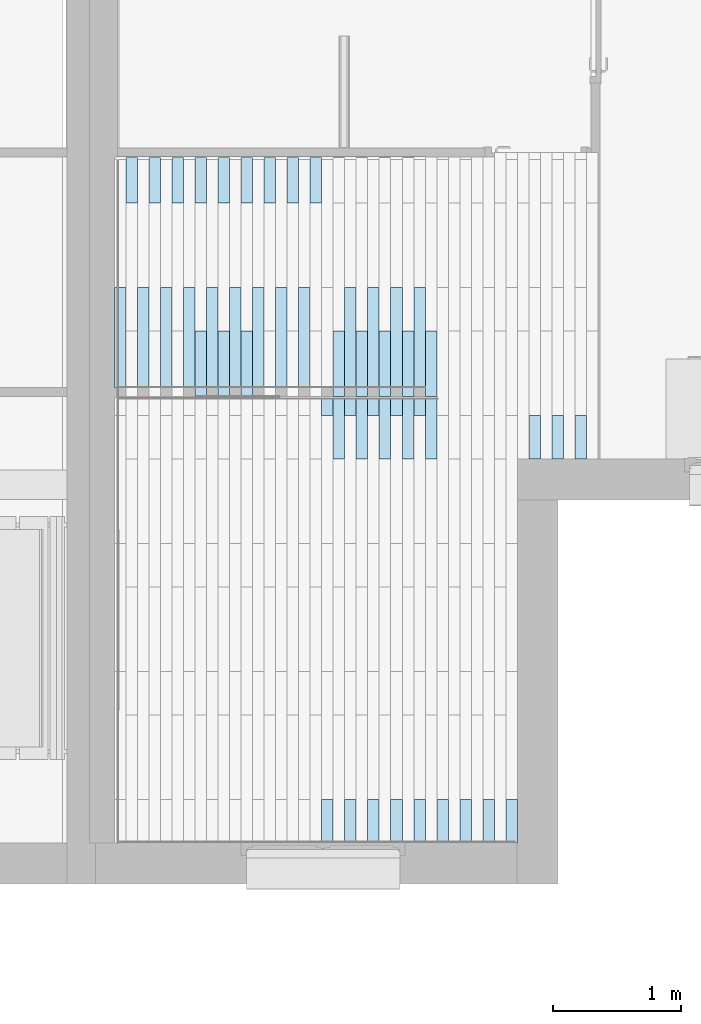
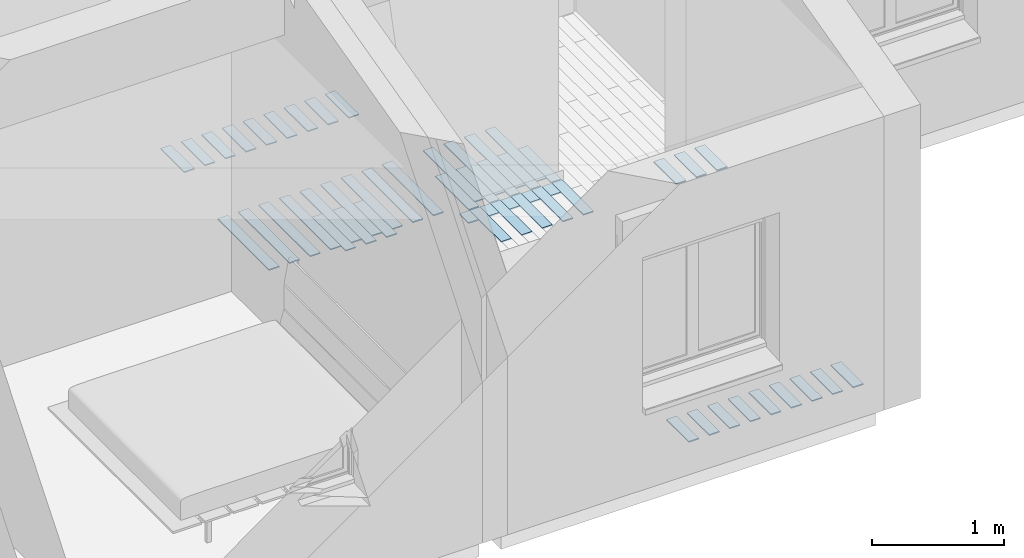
# One storey, part 5 of 50: 52 slabs.
"""IFC2X3 building model written with IfcOpenShell, lengths in metres."""

from ifc_helpers import new_model, entity, si_unit, converted_unit, derived_unit, direction, frame, frame_2d, origin, place, context, subcontext, project, spatial, rectangle, extrude, material, layer, layer_set, layer_usage, element, save


model = new_model("IFC2X3")

# Units and contexts
model_context = context("Model", 3, precision=1e-05, world=origin(), true_north=direction((6.12303176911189e-17, 1.0)))
context_of_model = context(None, 3, precision=1e-05, world=origin(), true_north=direction((6.12303176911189e-17, 1.0)))
body_context = subcontext(model_context, "Body", "Model", "MODEL_VIEW")
ifc_project = project(units=[si_unit("LENGTHUNIT", "METRE"), si_unit("AREAUNIT", "SQUARE_METRE"), si_unit("VOLUMEUNIT", "CUBIC_METRE"), converted_unit("PLANEANGLEUNIT", "DEGREE", entity("IfcRatioMeasure", 0.0174532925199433), si_unit("PLANEANGLEUNIT", "RADIAN"), dimensions=[0, 0, 0, 0, 0, 0, 0]), si_unit("MASSUNIT", "GRAM", prefix="KILO"), si_unit("TIMEUNIT", "SECOND"), si_unit("FREQUENCYUNIT", "HERTZ"), si_unit("THERMODYNAMICTEMPERATUREUNIT", "DEGREE_CELSIUS"), derived_unit("THERMALTRANSMITTANCEUNIT", [(si_unit("MASSUNIT", "GRAM", prefix="KILO"), 1), (si_unit("THERMODYNAMICTEMPERATUREUNIT", "KELVIN"), -1), (si_unit("TIMEUNIT", "SECOND"), -3)]), derived_unit("VOLUMETRICFLOWRATEUNIT", [(si_unit("LENGTHUNIT", "METRE"), 3), (si_unit("TIMEUNIT", "SECOND"), -1)]), si_unit("ELECTRICCURRENTUNIT", "AMPERE"), si_unit("ELECTRICVOLTAGEUNIT", "VOLT"), si_unit("POWERUNIT", "WATT"), si_unit("FORCEUNIT", "NEWTON", prefix="KILO"), si_unit("ILLUMINANCEUNIT", "LUX"), si_unit("LUMINOUSFLUXUNIT", "LUMEN"), si_unit("LUMINOUSINTENSITYUNIT", "CANDELA"), si_unit("PRESSUREUNIT", "PASCAL")], contexts=[model_context, context_of_model])

# Site, building, storey
site_placement = place(None, origin())
site = spatial("IfcSite", under=ifc_project, at=site_placement, Name="Surface", CompositionType="ELEMENT")
building_placement = place(site_placement, origin())
building = spatial("IfcBuilding", under=site, at=building_placement, CompositionType="ELEMENT")
storey_placement = place(building_placement, frame((0.0, 0.0, 2.82)))
storey = spatial("IfcBuildingStorey", under=building, at=storey_placement, Name="ETAGE", CompositionType="ELEMENT", Elevation=2.82)

# Slabs
ifc_material = material(Name="PARQUET BAMBOU")
ifc_layer = layer(ifc_material, 0.01)
ifc_layer_set = layer_set([ifc_layer], Name="Sol:LAME DE BAMBOU")
ifc_layer_usage_1 = layer_usage(ifc_layer_set, "AXIS3", "POSITIVE", 0.0)
slab_1_placement = place(storey_placement, origin())
element("IfcSlab", 1, at=slab_1_placement, inside=storey, material=ifc_layer_usage_1, Name="Sol:LAME DE BAMBOU", ObjectType="Sol:LAME DE BAMBOU", PredefinedType="FLOOR", context=body_context, shape_type="SweptSolid", body=[
    extrude(rectangle(XDim=0.339999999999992, YDim=0.0899999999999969, at=frame_2d((0.0, 8.66320903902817e-15), x_axis=(1.0, 0.0))), frame((85.566089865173, 81.4175239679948, 0.05), z_axis=(0.0, 0.0, -1.0), x_axis=(0.0, 1.0, 0.0)), (0.0, 0.0, 1.0), 0.00999999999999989),
])
ifc_layer_usage_2 = layer_usage(ifc_layer_set, "AXIS3", "POSITIVE", 0.0)
slab_2_placement = place(storey_placement, origin())
element("IfcSlab", 2, at=slab_2_placement, inside=storey, material=ifc_layer_usage_2, Name="Sol:LAME DE BAMBOU", ObjectType="Sol:LAME DE BAMBOU", PredefinedType="FLOOR", context=body_context, shape_type="SweptSolid", body=[
    extrude(rectangle(XDim=0.139570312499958, YDim=0.0899999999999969, at=frame_2d((8.65973959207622e-15, 8.66320903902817e-15), x_axis=(1.0, 0.0))), frame((85.566089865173, 84.6573091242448, 0.05), z_axis=(0.0, 0.0, -1.0), x_axis=(0.0, 1.0, 0.0)), (0.0, 0.0, 1.0), 0.00999999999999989),
])
ifc_layer_usage_3 = layer_usage(ifc_layer_set, "AXIS3", "POSITIVE", 0.0)
slab_3_placement = place(storey_placement, origin())
element("IfcSlab", 3, at=slab_3_placement, inside=storey, material=ifc_layer_usage_3, Name="Sol:LAME DE BAMBOU", ObjectType="Sol:LAME DE BAMBOU", PredefinedType="FLOOR", context=body_context, shape_type="SweptSolid", body=[
    extrude(rectangle(XDim=0.479580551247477, YDim=0.0899999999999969, at=frame_2d((8.65973959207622e-15, -8.66320903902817e-15), x_axis=(1.0, 0.0))), frame((85.656089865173, 84.4873142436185, 0.05), z_axis=(0.0, 0.0, -1.0), x_axis=(0.0, 1.0, 0.0)), (0.0, 0.0, 1.0), 0.00999999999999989),
])
ifc_layer_usage_4 = layer_usage(ifc_layer_set, "AXIS3", "POSITIVE", 0.0)
slab_4_placement = place(storey_placement, origin())
element("IfcSlab", 4, at=slab_4_placement, inside=storey, material=ifc_layer_usage_4, Name="Sol:LAME DE BAMBOU", ObjectType="Sol:LAME DE BAMBOU", PredefinedType="FLOOR", context=body_context, shape_type="SweptSolid", body=[
    extrude(rectangle(XDim=0.339999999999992, YDim=0.0899999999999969, at=frame_2d((0.0, 8.66320903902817e-15), x_axis=(1.0, 0.0))), frame((85.746089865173, 81.4175239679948, 0.05), z_axis=(0.0, 0.0, -1.0), x_axis=(0.0, 1.0, 0.0)), (0.0, 0.0, 1.0), 0.00999999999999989),
])
ifc_layer_usage_5 = layer_usage(ifc_layer_set, "AXIS3", "POSITIVE", 0.0)
slab_5_placement = place(storey_placement, origin())
element("IfcSlab", 5, at=slab_5_placement, inside=storey, material=ifc_layer_usage_5, Name="Sol:LAME DE BAMBOU", ObjectType="Sol:LAME DE BAMBOU", PredefinedType="FLOOR", context=body_context, shape_type="SweptSolid", body=[
    extrude(rectangle(XDim=0.139570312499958, YDim=0.0899999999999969, at=frame_2d((8.65973959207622e-15, 8.66320903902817e-15), x_axis=(1.0, 0.0))), frame((85.746089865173, 84.6573091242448, 0.05), z_axis=(0.0, 0.0, -1.0), x_axis=(0.0, 1.0, 0.0)), (0.0, 0.0, 1.0), 0.00999999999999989),
])
ifc_layer_usage_6 = layer_usage(ifc_layer_set, "AXIS3", "POSITIVE", 0.0)
slab_6_placement = place(storey_placement, origin())
element("IfcSlab", 6, at=slab_6_placement, inside=storey, material=ifc_layer_usage_6, Name="Sol:LAME DE BAMBOU", ObjectType="Sol:LAME DE BAMBOU", PredefinedType="FLOOR", context=body_context, shape_type="SweptSolid", body=[
    extrude(rectangle(XDim=0.479580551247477, YDim=0.0899999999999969, at=frame_2d((8.65973959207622e-15, 8.66320903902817e-15), x_axis=(1.0, 0.0))), frame((85.836089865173, 84.4873142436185, 0.05), z_axis=(0.0, 0.0, -1.0), x_axis=(0.0, 1.0, 0.0)), (0.0, 0.0, 1.0), 0.00999999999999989),
])
ifc_layer_usage_7 = layer_usage(ifc_layer_set, "AXIS3", "POSITIVE", 0.0)
slab_7_placement = place(storey_placement, origin())
element("IfcSlab", 7, at=slab_7_placement, inside=storey, material=ifc_layer_usage_7, Name="Sol:LAME DE BAMBOU", ObjectType="Sol:LAME DE BAMBOU", PredefinedType="FLOOR", context=body_context, shape_type="SweptSolid", body=[
    extrude(rectangle(XDim=0.339999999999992, YDim=0.0899999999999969, at=frame_2d((0.0, 8.66320903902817e-15), x_axis=(1.0, 0.0))), frame((85.926089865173, 81.4175239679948, 0.05), z_axis=(0.0, 0.0, -1.0), x_axis=(0.0, 1.0, 0.0)), (0.0, 0.0, 1.0), 0.00999999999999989),
])
ifc_layer_usage_8 = layer_usage(ifc_layer_set, "AXIS3", "POSITIVE", 0.0)
slab_8_placement = place(storey_placement, origin())
element("IfcSlab", 8, at=slab_8_placement, inside=storey, material=ifc_layer_usage_8, Name="Sol:LAME DE BAMBOU", ObjectType="Sol:LAME DE BAMBOU", PredefinedType="FLOOR", context=body_context, shape_type="SweptSolid", body=[
    extrude(rectangle(XDim=0.139570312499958, YDim=0.0899999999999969, at=frame_2d((8.65973959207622e-15, 8.66320903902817e-15), x_axis=(1.0, 0.0))), frame((85.926089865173, 84.6573091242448, 0.05), z_axis=(0.0, 0.0, -1.0), x_axis=(0.0, 1.0, 0.0)), (0.0, 0.0, 1.0), 0.00999999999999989),
])
ifc_layer_usage_9 = layer_usage(ifc_layer_set, "AXIS3", "POSITIVE", 0.0)
slab_9_placement = place(storey_placement, origin())
element("IfcSlab", 9, at=slab_9_placement, inside=storey, material=ifc_layer_usage_9, Name="Sol:LAME DE BAMBOU", ObjectType="Sol:LAME DE BAMBOU", PredefinedType="FLOOR", context=body_context, shape_type="SweptSolid", body=[
    extrude(rectangle(XDim=0.479580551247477, YDim=0.0899999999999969, at=frame_2d((8.65973959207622e-15, -8.66320903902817e-15), x_axis=(1.0, 0.0))), frame((86.016089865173, 84.4873142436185, 0.05), z_axis=(0.0, 0.0, -1.0), x_axis=(0.0, 1.0, 0.0)), (0.0, 0.0, 1.0), 0.00999999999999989),
])
ifc_layer_usage_10 = layer_usage(ifc_layer_set, "AXIS3", "POSITIVE", 0.0)
slab_10_placement = place(storey_placement, origin())
element("IfcSlab", 10, at=slab_10_placement, inside=storey, material=ifc_layer_usage_10, Name="Sol:LAME DE BAMBOU", ObjectType="Sol:LAME DE BAMBOU", PredefinedType="FLOOR", context=body_context, shape_type="SweptSolid", body=[
    extrude(rectangle(XDim=0.339999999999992, YDim=0.0899999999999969, at=frame_2d((0.0, 8.66320903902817e-15), x_axis=(1.0, 0.0))), frame((86.106089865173, 81.4175239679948, 0.05), z_axis=(0.0, 0.0, -1.0), x_axis=(0.0, 1.0, 0.0)), (0.0, 0.0, 1.0), 0.00999999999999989),
])
ifc_layer_usage_11 = layer_usage(ifc_layer_set, "AXIS3", "POSITIVE", 0.0)
slab_11_placement = place(storey_placement, origin())
element("IfcSlab", 11, at=slab_11_placement, inside=storey, material=ifc_layer_usage_11, Name="Sol:LAME DE BAMBOU", ObjectType="Sol:LAME DE BAMBOU", PredefinedType="FLOOR", context=body_context, shape_type="SweptSolid", body=[
    extrude(rectangle(XDim=0.139570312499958, YDim=0.0899999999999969, at=frame_2d((8.65973959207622e-15, 8.66320903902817e-15), x_axis=(1.0, 0.0))), frame((86.106089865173, 84.6573091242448, 0.05), z_axis=(0.0, 0.0, -1.0), x_axis=(0.0, 1.0, 0.0)), (0.0, 0.0, 1.0), 0.00999999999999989),
])
ifc_layer_usage_12 = layer_usage(ifc_layer_set, "AXIS3", "POSITIVE", 0.0)
slab_12_placement = place(storey_placement, origin())
element("IfcSlab", 12, at=slab_12_placement, inside=storey, material=ifc_layer_usage_12, Name="Sol:LAME DE BAMBOU", ObjectType="Sol:LAME DE BAMBOU", PredefinedType="FLOOR", context=body_context, shape_type="SweptSolid", body=[
    extrude(rectangle(XDim=0.479580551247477, YDim=0.0899999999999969, at=frame_2d((8.65973959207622e-15, 8.66320903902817e-15), x_axis=(1.0, 0.0))), frame((86.196089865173, 84.4873142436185, 0.05), z_axis=(0.0, 0.0, -1.0), x_axis=(0.0, 1.0, 0.0)), (0.0, 0.0, 1.0), 0.00999999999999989),
])
ifc_layer_usage_13 = layer_usage(ifc_layer_set, "AXIS3", "POSITIVE", 0.0)
slab_13_placement = place(storey_placement, origin())
element("IfcSlab", 13, at=slab_13_placement, inside=storey, material=ifc_layer_usage_13, Name="Sol:LAME DE BAMBOU", ObjectType="Sol:LAME DE BAMBOU", PredefinedType="FLOOR", context=body_context, shape_type="SweptSolid", body=[
    extrude(rectangle(XDim=0.339999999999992, YDim=0.0899999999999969, at=frame_2d((0.0, 8.66320903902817e-15), x_axis=(1.0, 0.0))), frame((86.286089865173, 81.4175239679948, 0.05), z_axis=(0.0, 0.0, -1.0), x_axis=(0.0, 1.0, 0.0)), (0.0, 0.0, 1.0), 0.00999999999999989),
])
ifc_layer_usage_14 = layer_usage(ifc_layer_set, "AXIS3", "POSITIVE", 0.0)
slab_14_placement = place(storey_placement, origin())
element("IfcSlab", 14, at=slab_14_placement, inside=storey, material=ifc_layer_usage_14, Name="Sol:LAME DE BAMBOU", ObjectType="Sol:LAME DE BAMBOU", PredefinedType="FLOOR", context=body_context, shape_type="SweptSolid", body=[
    extrude(rectangle(XDim=0.139570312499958, YDim=0.0899999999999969, at=frame_2d((8.65973959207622e-15, 8.66320903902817e-15), x_axis=(1.0, 0.0))), frame((86.286089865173, 84.6573091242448, 0.05), z_axis=(0.0, 0.0, -1.0), x_axis=(0.0, 1.0, 0.0)), (0.0, 0.0, 1.0), 0.00999999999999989),
])
ifc_layer_usage_15 = layer_usage(ifc_layer_set, "AXIS3", "POSITIVE", 0.0)
slab_15_placement = place(storey_placement, origin())
element("IfcSlab", 15, at=slab_15_placement, inside=storey, material=ifc_layer_usage_15, Name="Sol:LAME DE BAMBOU", ObjectType="Sol:LAME DE BAMBOU", PredefinedType="FLOOR", context=body_context, shape_type="SweptSolid", body=[
    extrude(rectangle(XDim=0.479580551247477, YDim=0.0899999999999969, at=frame_2d((8.65973959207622e-15, -8.66320903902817e-15), x_axis=(1.0, 0.0))), frame((86.376089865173, 84.4873142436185, 0.05), z_axis=(0.0, 0.0, -1.0), x_axis=(0.0, 1.0, 0.0)), (0.0, 0.0, 1.0), 0.00999999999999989),
])
ifc_layer_usage_16 = layer_usage(ifc_layer_set, "AXIS3", "POSITIVE", 0.0)
slab_16_placement = place(storey_placement, origin())
element("IfcSlab", 16, at=slab_16_placement, inside=storey, material=ifc_layer_usage_16, Name="Sol:LAME DE BAMBOU", ObjectType="Sol:LAME DE BAMBOU", PredefinedType="FLOOR", context=body_context, shape_type="SweptSolid", body=[
    extrude(rectangle(XDim=0.339999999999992, YDim=0.0899999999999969, at=frame_2d((0.0, 8.66320903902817e-15), x_axis=(1.0, 0.0))), frame((86.466089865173, 81.4175239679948, 0.05), z_axis=(0.0, 0.0, -1.0), x_axis=(0.0, 1.0, 0.0)), (0.0, 0.0, 1.0), 0.00999999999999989),
])
ifc_layer_usage_17 = layer_usage(ifc_layer_set, "AXIS3", "POSITIVE", 0.0)
slab_17_placement = place(storey_placement, origin())
element("IfcSlab", 17, at=slab_17_placement, inside=storey, material=ifc_layer_usage_17, Name="Sol:LAME DE BAMBOU", ObjectType="Sol:LAME DE BAMBOU", PredefinedType="FLOOR", context=body_context, shape_type="SweptSolid", body=[
    extrude(rectangle(XDim=0.339999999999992, YDim=0.0899999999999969, at=frame_2d((0.0, 8.66320903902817e-15), x_axis=(1.0, 0.0))), frame((86.646089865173, 81.4175239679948, 0.05), z_axis=(0.0, 0.0, -1.0), x_axis=(0.0, 1.0, 0.0)), (0.0, 0.0, 1.0), 0.00999999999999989),
])
ifc_layer_usage_18 = layer_usage(ifc_layer_set, "AXIS3", "POSITIVE", 0.0)
slab_18_placement = place(storey_placement, origin())
element("IfcSlab", 18, at=slab_18_placement, inside=storey, material=ifc_layer_usage_18, Name="Sol:LAME DE BAMBOU", ObjectType="Sol:LAME DE BAMBOU", PredefinedType="FLOOR", context=body_context, shape_type="SweptSolid", body=[
    extrude(rectangle(XDim=0.339999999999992, YDim=0.0899999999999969, at=frame_2d((0.0, 8.66320903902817e-15), x_axis=(1.0, 0.0))), frame((86.826089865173, 81.4175239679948, 0.05), z_axis=(0.0, 0.0, -1.0), x_axis=(0.0, 1.0, 0.0)), (0.0, 0.0, 1.0), 0.00999999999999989),
])
ifc_layer_usage_19 = layer_usage(ifc_layer_set, "AXIS3", "POSITIVE", 0.0)
slab_19_placement = place(storey_placement, origin())
element("IfcSlab", 19, at=slab_19_placement, inside=storey, material=ifc_layer_usage_19, Name="Sol:LAME DE BAMBOU", ObjectType="Sol:LAME DE BAMBOU", PredefinedType="FLOOR", context=body_context, shape_type="SweptSolid", body=[
    extrude(rectangle(XDim=0.339999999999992, YDim=0.0899999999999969, at=frame_2d((0.0, 8.66320903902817e-15), x_axis=(1.0, 0.0))), frame((87.006089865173, 81.4175239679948, 0.05), z_axis=(0.0, 0.0, -1.0), x_axis=(0.0, 1.0, 0.0)), (0.0, 0.0, 1.0), 0.00999999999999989),
])
ifc_layer_usage_20 = layer_usage(ifc_layer_set, "AXIS3", "POSITIVE", 0.0)
slab_20_placement = place(storey_placement, origin())
element("IfcSlab", 20, at=slab_20_placement, inside=storey, material=ifc_layer_usage_20, Name="Sol:LAME DE BAMBOU", ObjectType="Sol:LAME DE BAMBOU", PredefinedType="FLOOR", context=body_context, shape_type="SweptSolid", body=[
    extrude(rectangle(XDim=0.339999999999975, YDim=0.0899999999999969, at=frame_2d((-8.67361737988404e-15, 8.66320903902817e-15), x_axis=(1.0, 0.0))), frame((87.1861607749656, 84.4175239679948, 0.05), z_axis=(0.0, 0.0, -1.0), x_axis=(0.0, 1.0, 0.0)), (0.0, 0.0, 1.0), 0.00999999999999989),
])
ifc_layer_usage_21 = layer_usage(ifc_layer_set, "AXIS3", "POSITIVE", 0.0)
slab_21_placement = place(storey_placement, origin())
element("IfcSlab", 21, at=slab_21_placement, inside=storey, material=ifc_layer_usage_21, Name="Sol:LAME DE BAMBOU", ObjectType="Sol:LAME DE BAMBOU", PredefinedType="FLOOR", context=body_context, shape_type="SweptSolid", body=[
    extrude(rectangle(XDim=0.339999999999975, YDim=0.0899999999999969, at=frame_2d((-8.67361737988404e-15, -8.66320903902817e-15), x_axis=(1.0, 0.0))), frame((87.3661607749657, 84.4175239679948, 0.05), z_axis=(0.0, 0.0, -1.0), x_axis=(0.0, 1.0, 0.0)), (0.0, 0.0, 1.0), 0.00999999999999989),
])
ifc_layer_usage_22 = layer_usage(ifc_layer_set, "AXIS3", "POSITIVE", 0.0)
slab_22_placement = place(storey_placement, origin())
element("IfcSlab", 22, at=slab_22_placement, inside=storey, material=ifc_layer_usage_22, Name="Sol:LAME DE BAMBOU", ObjectType="Sol:LAME DE BAMBOU", PredefinedType="FLOOR", context=body_context, shape_type="SweptSolid", body=[
    extrude(rectangle(XDim=0.339999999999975, YDim=0.0899999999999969, at=frame_2d((-8.67361737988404e-15, 8.66320903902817e-15), x_axis=(1.0, 0.0))), frame((87.5461607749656, 84.4175239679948, 0.05), z_axis=(0.0, 0.0, -1.0), x_axis=(0.0, 1.0, 0.0)), (0.0, 0.0, 1.0), 0.00999999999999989),
])
ifc_layer_usage_23 = layer_usage(ifc_layer_set, "AXIS3", "POSITIVE", 0.0)
slab_23_placement = place(storey_placement, origin())
element("IfcSlab", 23, at=slab_23_placement, inside=storey, material=ifc_layer_usage_23, Name="Sol:LAME DE BAMBOU", ObjectType="Sol:LAME DE BAMBOU", PredefinedType="FLOOR", context=body_context, shape_type="SweptSolid", body=[
    extrude(rectangle(XDim=0.510000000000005, YDim=0.0899999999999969, at=frame_2d((-8.65973959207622e-15, -8.66320903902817e-15), x_axis=(1.0, 0.0))), frame((86.376089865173, 84.9925239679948, 0.05), z_axis=(0.0, 0.0, -1.0), x_axis=(0.0, 1.0, 0.0)), (0.0, 0.0, 1.0), 0.00999999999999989),
])
ifc_layer_usage_24 = layer_usage(ifc_layer_set, "AXIS3", "POSITIVE", 0.0)
slab_24_placement = place(storey_placement, origin())
element("IfcSlab", 24, at=slab_24_placement, inside=storey, material=ifc_layer_usage_24, Name="Sol:LAME DE BAMBOU", ObjectType="Sol:LAME DE BAMBOU", PredefinedType="FLOOR", context=body_context, shape_type="SweptSolid", body=[
    extrude(rectangle(XDim=0.779999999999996, YDim=0.0899999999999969, at=frame_2d((0.0, 8.66320903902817e-15), x_axis=(1.0, 0.0))), frame((86.286089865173, 85.1975239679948, 0.05), z_axis=(0.0, 0.0, -1.0), x_axis=(0.0, 1.0, 0.0)), (0.0, 0.0, 1.0), 0.00999999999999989),
])
ifc_layer_usage_25 = layer_usage(ifc_layer_set, "AXIS3", "POSITIVE", 0.0)
slab_25_placement = place(storey_placement, origin())
element("IfcSlab", 25, at=slab_25_placement, inside=storey, material=ifc_layer_usage_25, Name="Sol:LAME DE BAMBOU", ObjectType="Sol:LAME DE BAMBOU", PredefinedType="FLOOR", context=body_context, shape_type="SweptSolid", body=[
    extrude(rectangle(XDim=0.510000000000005, YDim=0.0899999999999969, at=frame_2d((-8.65973959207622e-15, 8.66320903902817e-15), x_axis=(1.0, 0.0))), frame((86.1960898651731, 84.9925239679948, 0.05), z_axis=(0.0, 0.0, -1.0), x_axis=(0.0, 1.0, 0.0)), (0.0, 0.0, 1.0), 0.00999999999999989),
])
ifc_layer_usage_26 = layer_usage(ifc_layer_set, "AXIS3", "POSITIVE", 0.0)
slab_26_placement = place(storey_placement, origin())
element("IfcSlab", 26, at=slab_26_placement, inside=storey, material=ifc_layer_usage_26, Name="Sol:LAME DE BAMBOU", ObjectType="Sol:LAME DE BAMBOU", PredefinedType="FLOOR", context=body_context, shape_type="SweptSolid", body=[
    extrude(rectangle(XDim=0.779999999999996, YDim=0.0899999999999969, at=frame_2d((0.0, 8.66320903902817e-15), x_axis=(1.0, 0.0))), frame((86.106089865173, 85.1975239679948, 0.05), z_axis=(0.0, 0.0, -1.0), x_axis=(0.0, 1.0, 0.0)), (0.0, 0.0, 1.0), 0.00999999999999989),
])
ifc_layer_usage_27 = layer_usage(ifc_layer_set, "AXIS3", "POSITIVE", 0.0)
slab_27_placement = place(storey_placement, origin())
element("IfcSlab", 27, at=slab_27_placement, inside=storey, material=ifc_layer_usage_27, Name="Sol:LAME DE BAMBOU", ObjectType="Sol:LAME DE BAMBOU", PredefinedType="FLOOR", context=body_context, shape_type="SweptSolid", body=[
    extrude(rectangle(XDim=0.510000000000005, YDim=0.0899999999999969, at=frame_2d((-8.65973959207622e-15, 8.66320903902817e-15), x_axis=(1.0, 0.0))), frame((86.0160898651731, 84.9925239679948, 0.05), z_axis=(0.0, 0.0, -1.0), x_axis=(0.0, 1.0, 0.0)), (0.0, 0.0, 1.0), 0.00999999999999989),
])
ifc_layer_usage_28 = layer_usage(ifc_layer_set, "AXIS3", "POSITIVE", 0.0)
slab_28_placement = place(storey_placement, origin())
element("IfcSlab", 28, at=slab_28_placement, inside=storey, material=ifc_layer_usage_28, Name="Sol:LAME DE BAMBOU", ObjectType="Sol:LAME DE BAMBOU", PredefinedType="FLOOR", context=body_context, shape_type="SweptSolid", body=[
    extrude(rectangle(XDim=0.779999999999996, YDim=0.0899999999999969, at=frame_2d((0.0, 8.66320903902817e-15), x_axis=(1.0, 0.0))), frame((85.926089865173, 85.1975239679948, 0.05), z_axis=(0.0, 0.0, -1.0), x_axis=(0.0, 1.0, 0.0)), (0.0, 0.0, 1.0), 0.00999999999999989),
])
ifc_layer_usage_29 = layer_usage(ifc_layer_set, "AXIS3", "POSITIVE", 0.0)
slab_29_placement = place(storey_placement, origin())
element("IfcSlab", 29, at=slab_29_placement, inside=storey, material=ifc_layer_usage_29, Name="Sol:LAME DE BAMBOU", ObjectType="Sol:LAME DE BAMBOU", PredefinedType="FLOOR", context=body_context, shape_type="SweptSolid", body=[
    extrude(rectangle(XDim=0.510000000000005, YDim=0.0899999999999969, at=frame_2d((-8.65973959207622e-15, 8.66320903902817e-15), x_axis=(1.0, 0.0))), frame((85.8360898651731, 84.9925239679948, 0.05), z_axis=(0.0, 0.0, -1.0), x_axis=(0.0, 1.0, 0.0)), (0.0, 0.0, 1.0), 0.00999999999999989),
])
ifc_layer_usage_30 = layer_usage(ifc_layer_set, "AXIS3", "POSITIVE", 0.0)
slab_30_placement = place(storey_placement, origin())
element("IfcSlab", 30, at=slab_30_placement, inside=storey, material=ifc_layer_usage_30, Name="Sol:LAME DE BAMBOU", ObjectType="Sol:LAME DE BAMBOU", PredefinedType="FLOOR", context=body_context, shape_type="SweptSolid", body=[
    extrude(rectangle(XDim=0.779999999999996, YDim=0.0899999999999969, at=frame_2d((0.0, 8.66320903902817e-15), x_axis=(1.0, 0.0))), frame((85.746089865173, 85.1975239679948, 0.05), z_axis=(0.0, 0.0, -1.0), x_axis=(0.0, 1.0, 0.0)), (0.0, 0.0, 1.0), 0.00999999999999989),
])
ifc_layer_usage_31 = layer_usage(ifc_layer_set, "AXIS3", "POSITIVE", 0.0)
slab_31_placement = place(storey_placement, origin())
element("IfcSlab", 31, at=slab_31_placement, inside=storey, material=ifc_layer_usage_31, Name="Sol:LAME DE BAMBOU", ObjectType="Sol:LAME DE BAMBOU", PredefinedType="FLOOR", context=body_context, shape_type="SweptSolid", body=[
    extrude(rectangle(XDim=0.510000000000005, YDim=0.0899999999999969, at=frame_2d((-8.65973959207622e-15, 8.66320903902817e-15), x_axis=(1.0, 0.0))), frame((85.6560898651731, 84.9925239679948, 0.05), z_axis=(0.0, 0.0, -1.0), x_axis=(0.0, 1.0, 0.0)), (0.0, 0.0, 1.0), 0.00999999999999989),
])
ifc_layer_usage_32 = layer_usage(ifc_layer_set, "AXIS3", "POSITIVE", 0.0)
slab_32_placement = place(storey_placement, origin())
element("IfcSlab", 32, at=slab_32_placement, inside=storey, material=ifc_layer_usage_32, Name="Sol:LAME DE BAMBOU", ObjectType="Sol:LAME DE BAMBOU", PredefinedType="FLOOR", context=body_context, shape_type="SweptSolid", body=[
    extrude(rectangle(XDim=0.360000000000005, YDim=0.0899999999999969, at=frame_2d((-8.67361737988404e-15, 8.66320903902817e-15), x_axis=(1.0, 0.0))), frame((85.4760898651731, 86.4275239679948, 0.05), z_axis=(0.0, 0.0, -1.0), x_axis=(0.0, 1.0, 0.0)), (0.0, 0.0, 1.0), 0.00999999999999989),
])
ifc_layer_usage_33 = layer_usage(ifc_layer_set, "AXIS3", "POSITIVE", 0.0)
slab_33_placement = place(storey_placement, origin())
element("IfcSlab", 33, at=slab_33_placement, inside=storey, material=ifc_layer_usage_33, Name="Sol:LAME DE BAMBOU", ObjectType="Sol:LAME DE BAMBOU", PredefinedType="FLOOR", context=body_context, shape_type="SweptSolid", body=[
    extrude(rectangle(XDim=0.779999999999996, YDim=0.0899999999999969, at=frame_2d((0.0, 8.66320903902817e-15), x_axis=(1.0, 0.0))), frame((85.386089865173, 85.1975239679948, 0.05), z_axis=(0.0, 0.0, -1.0), x_axis=(0.0, 1.0, 0.0)), (0.0, 0.0, 1.0), 0.00999999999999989),
])
ifc_layer_usage_34 = layer_usage(ifc_layer_set, "AXIS3", "POSITIVE", 0.0)
slab_34_placement = place(storey_placement, origin())
element("IfcSlab", 34, at=slab_34_placement, inside=storey, material=ifc_layer_usage_34, Name="Sol:LAME DE BAMBOU", ObjectType="Sol:LAME DE BAMBOU", PredefinedType="FLOOR", context=body_context, shape_type="SweptSolid", body=[
    extrude(rectangle(XDim=0.360000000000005, YDim=0.0899999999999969, at=frame_2d((-8.67361737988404e-15, 8.66320903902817e-15), x_axis=(1.0, 0.0))), frame((85.2960898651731, 86.4275239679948, 0.05), z_axis=(0.0, 0.0, -1.0), x_axis=(0.0, 1.0, 0.0)), (0.0, 0.0, 1.0), 0.00999999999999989),
])
ifc_layer_usage_35 = layer_usage(ifc_layer_set, "AXIS3", "POSITIVE", 0.0)
slab_35_placement = place(storey_placement, origin())
element("IfcSlab", 35, at=slab_35_placement, inside=storey, material=ifc_layer_usage_35, Name="Sol:LAME DE BAMBOU", ObjectType="Sol:LAME DE BAMBOU", PredefinedType="FLOOR", context=body_context, shape_type="SweptSolid", body=[
    extrude(rectangle(XDim=0.779999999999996, YDim=0.0899999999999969, at=frame_2d((0.0, 8.66320903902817e-15), x_axis=(1.0, 0.0))), frame((85.206089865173, 85.1975239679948, 0.05), z_axis=(0.0, 0.0, -1.0), x_axis=(0.0, 1.0, 0.0)), (0.0, 0.0, 1.0), 0.00999999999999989),
])
ifc_layer_usage_36 = layer_usage(ifc_layer_set, "AXIS3", "POSITIVE", 0.0)
slab_36_placement = place(storey_placement, origin())
element("IfcSlab", 36, at=slab_36_placement, inside=storey, material=ifc_layer_usage_36, Name="Sol:LAME DE BAMBOU", ObjectType="Sol:LAME DE BAMBOU", PredefinedType="FLOOR", context=body_context, shape_type="SweptSolid", body=[
    extrude(rectangle(XDim=0.360000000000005, YDim=0.0899999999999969, at=frame_2d((-8.67361737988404e-15, 8.66320903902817e-15), x_axis=(1.0, 0.0))), frame((85.1160898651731, 86.4275239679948, 0.05), z_axis=(0.0, 0.0, -1.0), x_axis=(0.0, 1.0, 0.0)), (0.0, 0.0, 1.0), 0.00999999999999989),
])
ifc_layer_usage_37 = layer_usage(ifc_layer_set, "AXIS3", "POSITIVE", 0.0)
slab_37_placement = place(storey_placement, origin())
element("IfcSlab", 37, at=slab_37_placement, inside=storey, material=ifc_layer_usage_37, Name="Sol:LAME DE BAMBOU", ObjectType="Sol:LAME DE BAMBOU", PredefinedType="FLOOR", context=body_context, shape_type="SweptSolid", body=[
    extrude(rectangle(XDim=0.779999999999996, YDim=0.0899999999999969, at=frame_2d((0.0, 8.66320903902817e-15), x_axis=(1.0, 0.0))), frame((85.0260898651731, 85.1975239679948, 0.05), z_axis=(0.0, 0.0, -1.0), x_axis=(0.0, 1.0, 0.0)), (0.0, 0.0, 1.0), 0.00999999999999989),
])
ifc_layer_usage_38 = layer_usage(ifc_layer_set, "AXIS3", "POSITIVE", 0.0)
slab_38_placement = place(storey_placement, origin())
element("IfcSlab", 38, at=slab_38_placement, inside=storey, material=ifc_layer_usage_38, Name="Sol:LAME DE BAMBOU", ObjectType="Sol:LAME DE BAMBOU", PredefinedType="FLOOR", context=body_context, shape_type="SweptSolid", body=[
    extrude(rectangle(XDim=0.510000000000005, YDim=0.0899999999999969, at=frame_2d((-8.65973959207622e-15, 8.66320903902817e-15), x_axis=(1.0, 0.0))), frame((84.9360898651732, 84.9925239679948, 0.05), z_axis=(0.0, 0.0, -1.0), x_axis=(0.0, 1.0, 0.0)), (0.0, 0.0, 1.0), 0.00999999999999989),
])
ifc_layer_usage_39 = layer_usage(ifc_layer_set, "AXIS3", "POSITIVE", 0.0)
slab_39_placement = place(storey_placement, origin())
element("IfcSlab", 39, at=slab_39_placement, inside=storey, material=ifc_layer_usage_39, Name="Sol:LAME DE BAMBOU", ObjectType="Sol:LAME DE BAMBOU", PredefinedType="FLOOR", context=body_context, shape_type="SweptSolid", body=[
    extrude(rectangle(XDim=0.360000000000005, YDim=0.0899999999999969, at=frame_2d((-8.67361737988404e-15, 8.66320903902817e-15), x_axis=(1.0, 0.0))), frame((84.9360898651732, 86.4275239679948, 0.05), z_axis=(0.0, 0.0, -1.0), x_axis=(0.0, 1.0, 0.0)), (0.0, 0.0, 1.0), 0.00999999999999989),
])
ifc_layer_usage_40 = layer_usage(ifc_layer_set, "AXIS3", "POSITIVE", 0.0)
slab_40_placement = place(storey_placement, origin())
element("IfcSlab", 40, at=slab_40_placement, inside=storey, material=ifc_layer_usage_40, Name="Sol:LAME DE BAMBOU", ObjectType="Sol:LAME DE BAMBOU", PredefinedType="FLOOR", context=body_context, shape_type="SweptSolid", body=[
    extrude(rectangle(XDim=0.779999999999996, YDim=0.0899999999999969, at=frame_2d((0.0, -8.66320903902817e-15), x_axis=(1.0, 0.0))), frame((84.8460898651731, 85.1975239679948, 0.05), z_axis=(0.0, 0.0, -1.0), x_axis=(0.0, 1.0, 0.0)), (0.0, 0.0, 1.0), 0.00999999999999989),
])
ifc_layer_usage_41 = layer_usage(ifc_layer_set, "AXIS3", "POSITIVE", 0.0)
slab_41_placement = place(storey_placement, origin())
element("IfcSlab", 41, at=slab_41_placement, inside=storey, material=ifc_layer_usage_41, Name="Sol:LAME DE BAMBOU", ObjectType="Sol:LAME DE BAMBOU", PredefinedType="FLOOR", context=body_context, shape_type="SweptSolid", body=[
    extrude(rectangle(XDim=0.510000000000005, YDim=0.0899999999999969, at=frame_2d((-8.65973959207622e-15, -8.66320903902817e-15), x_axis=(1.0, 0.0))), frame((84.7560898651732, 84.9925239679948, 0.05), z_axis=(0.0, 0.0, -1.0), x_axis=(0.0, 1.0, 0.0)), (0.0, 0.0, 1.0), 0.00999999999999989),
])
ifc_layer_usage_42 = layer_usage(ifc_layer_set, "AXIS3", "POSITIVE", 0.0)
slab_42_placement = place(storey_placement, origin())
element("IfcSlab", 42, at=slab_42_placement, inside=storey, material=ifc_layer_usage_42, Name="Sol:LAME DE BAMBOU", ObjectType="Sol:LAME DE BAMBOU", PredefinedType="FLOOR", context=body_context, shape_type="SweptSolid", body=[
    extrude(rectangle(XDim=0.360000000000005, YDim=0.0899999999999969, at=frame_2d((-8.67361737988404e-15, -8.66320903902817e-15), x_axis=(1.0, 0.0))), frame((84.7560898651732, 86.4275239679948, 0.05), z_axis=(0.0, 0.0, -1.0), x_axis=(0.0, 1.0, 0.0)), (0.0, 0.0, 1.0), 0.00999999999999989),
])
ifc_layer_usage_43 = layer_usage(ifc_layer_set, "AXIS3", "POSITIVE", 0.0)
slab_43_placement = place(storey_placement, origin())
element("IfcSlab", 43, at=slab_43_placement, inside=storey, material=ifc_layer_usage_43, Name="Sol:LAME DE BAMBOU", ObjectType="Sol:LAME DE BAMBOU", PredefinedType="FLOOR", context=body_context, shape_type="SweptSolid", body=[
    extrude(rectangle(XDim=0.779999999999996, YDim=0.0899999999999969, at=frame_2d((0.0, 8.66320903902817e-15), x_axis=(1.0, 0.0))), frame((84.6660898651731, 85.1975239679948, 0.05), z_axis=(0.0, 0.0, -1.0), x_axis=(0.0, 1.0, 0.0)), (0.0, 0.0, 1.0), 0.00999999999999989),
])
ifc_layer_usage_44 = layer_usage(ifc_layer_set, "AXIS3", "POSITIVE", 0.0)
slab_44_placement = place(storey_placement, origin())
element("IfcSlab", 44, at=slab_44_placement, inside=storey, material=ifc_layer_usage_44, Name="Sol:LAME DE BAMBOU", ObjectType="Sol:LAME DE BAMBOU", PredefinedType="FLOOR", context=body_context, shape_type="SweptSolid", body=[
    extrude(rectangle(XDim=0.510000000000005, YDim=0.0899999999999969, at=frame_2d((-8.65973959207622e-15, 8.66320903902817e-15), x_axis=(1.0, 0.0))), frame((84.5760898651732, 84.9925239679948, 0.05), z_axis=(0.0, 0.0, -1.0), x_axis=(0.0, 1.0, 0.0)), (0.0, 0.0, 1.0), 0.00999999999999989),
])
ifc_layer_usage_45 = layer_usage(ifc_layer_set, "AXIS3", "POSITIVE", 0.0)
slab_45_placement = place(storey_placement, origin())
element("IfcSlab", 45, at=slab_45_placement, inside=storey, material=ifc_layer_usage_45, Name="Sol:LAME DE BAMBOU", ObjectType="Sol:LAME DE BAMBOU", PredefinedType="FLOOR", context=body_context, shape_type="SweptSolid", body=[
    extrude(rectangle(XDim=0.360000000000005, YDim=0.0899999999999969, at=frame_2d((-8.67361737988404e-15, 8.66320903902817e-15), x_axis=(1.0, 0.0))), frame((84.5760898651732, 86.4275239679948, 0.05), z_axis=(0.0, 0.0, -1.0), x_axis=(0.0, 1.0, 0.0)), (0.0, 0.0, 1.0), 0.00999999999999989),
])
ifc_layer_usage_46 = layer_usage(ifc_layer_set, "AXIS3", "POSITIVE", 0.0)
slab_46_placement = place(storey_placement, origin())
element("IfcSlab", 46, at=slab_46_placement, inside=storey, material=ifc_layer_usage_46, Name="Sol:LAME DE BAMBOU", ObjectType="Sol:LAME DE BAMBOU", PredefinedType="FLOOR", context=body_context, shape_type="SweptSolid", body=[
    extrude(rectangle(XDim=0.779999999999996, YDim=0.0899999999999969, at=frame_2d((0.0, -8.66320903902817e-15), x_axis=(1.0, 0.0))), frame((84.4860898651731, 85.1975239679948, 0.05), z_axis=(0.0, 0.0, -1.0), x_axis=(0.0, 1.0, 0.0)), (0.0, 0.0, 1.0), 0.00999999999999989),
])
ifc_layer_usage_47 = layer_usage(ifc_layer_set, "AXIS3", "POSITIVE", 0.0)
slab_47_placement = place(storey_placement, origin())
element("IfcSlab", 47, at=slab_47_placement, inside=storey, material=ifc_layer_usage_47, Name="Sol:LAME DE BAMBOU", ObjectType="Sol:LAME DE BAMBOU", PredefinedType="FLOOR", context=body_context, shape_type="SweptSolid", body=[
    extrude(rectangle(XDim=0.360000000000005, YDim=0.0899999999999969, at=frame_2d((-8.67361737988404e-15, -8.66320903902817e-15), x_axis=(1.0, 0.0))), frame((84.3960898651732, 86.4275239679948, 0.05), z_axis=(0.0, 0.0, -1.0), x_axis=(0.0, 1.0, 0.0)), (0.0, 0.0, 1.0), 0.00999999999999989),
])
ifc_layer_usage_48 = layer_usage(ifc_layer_set, "AXIS3", "POSITIVE", 0.0)
slab_48_placement = place(storey_placement, origin())
element("IfcSlab", 48, at=slab_48_placement, inside=storey, material=ifc_layer_usage_48, Name="Sol:LAME DE BAMBOU", ObjectType="Sol:LAME DE BAMBOU", PredefinedType="FLOOR", context=body_context, shape_type="SweptSolid", body=[
    extrude(rectangle(XDim=0.779999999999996, YDim=0.0899999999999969, at=frame_2d((0.0, 8.66320903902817e-15), x_axis=(1.0, 0.0))), frame((84.3060898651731, 85.1975239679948, 0.05), z_axis=(0.0, 0.0, -1.0), x_axis=(0.0, 1.0, 0.0)), (0.0, 0.0, 1.0), 0.00999999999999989),
])
ifc_layer_usage_49 = layer_usage(ifc_layer_set, "AXIS3", "POSITIVE", 0.0)
slab_49_placement = place(storey_placement, origin())
element("IfcSlab", 49, at=slab_49_placement, inside=storey, material=ifc_layer_usage_49, Name="Sol:LAME DE BAMBOU", ObjectType="Sol:LAME DE BAMBOU", PredefinedType="FLOOR", context=body_context, shape_type="SweptSolid", body=[
    extrude(rectangle(XDim=0.360000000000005, YDim=0.0899999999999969, at=frame_2d((-8.67361737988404e-15, 8.66320903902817e-15), x_axis=(1.0, 0.0))), frame((84.2160898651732, 86.4275239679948, 0.05), z_axis=(0.0, 0.0, -1.0), x_axis=(0.0, 1.0, 0.0)), (0.0, 0.0, 1.0), 0.00999999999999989),
])
ifc_layer_usage_50 = layer_usage(ifc_layer_set, "AXIS3", "POSITIVE", 0.0)
slab_50_placement = place(storey_placement, origin())
element("IfcSlab", 50, at=slab_50_placement, inside=storey, material=ifc_layer_usage_50, Name="Sol:LAME DE BAMBOU", ObjectType="Sol:LAME DE BAMBOU", PredefinedType="FLOOR", context=body_context, shape_type="SweptSolid", body=[
    extrude(rectangle(XDim=0.779999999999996, YDim=0.0899999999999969, at=frame_2d((0.0, -8.66320903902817e-15), x_axis=(1.0, 0.0))), frame((84.1260898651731, 85.1975239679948, 0.05), z_axis=(0.0, 0.0, -1.0), x_axis=(0.0, 1.0, 0.0)), (0.0, 0.0, 1.0), 0.00999999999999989),
])
ifc_layer_usage_51 = layer_usage(ifc_layer_set, "AXIS3", "POSITIVE", 0.0)
slab_51_placement = place(storey_placement, origin())
element("IfcSlab", 51, at=slab_51_placement, inside=storey, material=ifc_layer_usage_51, Name="Sol:LAME DE BAMBOU", ObjectType="Sol:LAME DE BAMBOU", PredefinedType="FLOOR", context=body_context, shape_type="SweptSolid", body=[
    extrude(rectangle(XDim=0.360000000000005, YDim=0.0899999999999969, at=frame_2d((-8.67361737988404e-15, -8.66320903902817e-15), x_axis=(1.0, 0.0))), frame((84.0360898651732, 86.4275239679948, 0.05), z_axis=(0.0, 0.0, -1.0), x_axis=(0.0, 1.0, 0.0)), (0.0, 0.0, 1.0), 0.00999999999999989),
])
ifc_layer_usage_52 = layer_usage(ifc_layer_set, "AXIS3", "POSITIVE", 0.0)
slab_52_placement = place(storey_placement, origin())
element("IfcSlab", 52, at=slab_52_placement, inside=storey, material=ifc_layer_usage_52, Name="Sol:LAME DE BAMBOU", ObjectType="Sol:LAME DE BAMBOU", PredefinedType="FLOOR", context=body_context, shape_type="SweptSolid", body=[
    extrude(rectangle(XDim=0.779999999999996, YDim=0.0899999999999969, at=frame_2d((0.0, 8.66320903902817e-15), x_axis=(1.0, 0.0))), frame((83.9460898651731, 85.1975239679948, 0.05), z_axis=(0.0, 0.0, -1.0), x_axis=(0.0, 1.0, 0.0)), (0.0, 0.0, 1.0), 0.00999999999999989),
])

save(model, "model.ifc")
